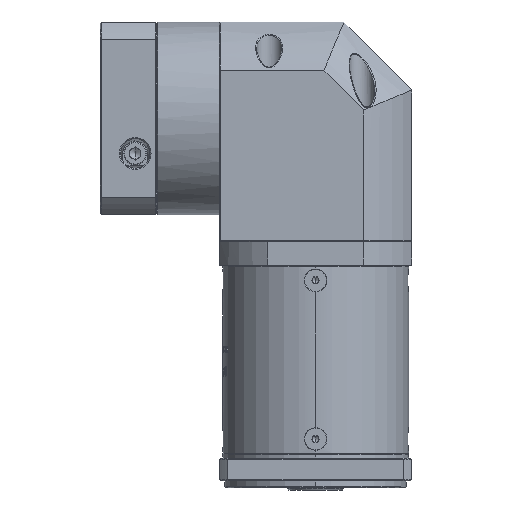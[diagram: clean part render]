
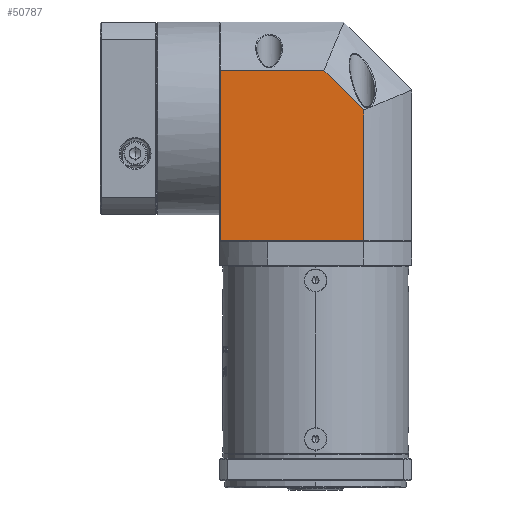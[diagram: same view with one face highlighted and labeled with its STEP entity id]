
A CAD part, left-side view. The second image highlights one B-rep face of the part: STEP entity #50787.
In plain terms, the highlighted planar face has unit normal (-1, 0, 0).
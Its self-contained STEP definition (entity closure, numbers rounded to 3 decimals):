
#348 = DIRECTION ( 'NONE',  ( 0., -1., 0. ) ) ;
#7952 = VERTEX_POINT ( 'NONE', #88478 ) ;
#11589 = VECTOR ( 'NONE', #348, 1000. ) ;
#12476 = VECTOR ( 'NONE', #34787, 1000. ) ;
#14068 = VECTOR ( 'NONE', #121519, 1000. ) ;
#20543 = ORIENTED_EDGE ( 'NONE', *, *, #99716, .F. ) ;
#29097 = CARTESIAN_POINT ( 'NONE',  ( -129.934, 75.993, 33.438 ) ) ;
#34787 = DIRECTION ( 'NONE',  ( 0., -0.707, -0.707 ) ) ;
#34889 = EDGE_LOOP ( 'NONE', ( #36699, #127646, #167060, #152619, #20543 ) ) ;
#35917 = DIRECTION ( 'NONE',  ( 1., 0., 0. ) ) ;
#36699 = ORIENTED_EDGE ( 'NONE', *, *, #124267, .T. ) ;
#50787 = ADVANCED_FACE ( 'NONE', ( #165572 ), #140981, .F. ) ;
#52873 = VERTEX_POINT ( 'NONE', #160065 ) ;
#56956 = DIRECTION ( 'NONE',  ( 0., 0., -1. ) ) ;
#59354 = CARTESIAN_POINT ( 'NONE',  ( -129.934, 75.493, 33.438 ) ) ;
#59616 = LINE ( 'NONE', #70251, #125705 ) ;
#63586 = CARTESIAN_POINT ( 'NONE',  ( -129.934, 29.81, 108.651 ) ) ;
#70251 = CARTESIAN_POINT ( 'NONE',  ( -129.934, 12.28, 133.438 ) ) ;
#74642 = CARTESIAN_POINT ( 'NONE',  ( -129.934, 29.81, 108.651 ) ) ;
#79034 = VERTEX_POINT ( 'NONE', #111309 ) ;
#79635 = CARTESIAN_POINT ( 'NONE',  ( -129.934, 75.993, 108.651 ) ) ;
#87617 = CARTESIAN_POINT ( 'NONE',  ( -129.934, 75.493, 129.938 ) ) ;
#88478 = CARTESIAN_POINT ( 'NONE',  ( -129.934, 12.28, 33.438 ) ) ;
#95436 = AXIS2_PLACEMENT_3D ( 'NONE', #115061, #35917, #128266 ) ;
#99551 = EDGE_CURVE ( 'NONE', #52873, #7952, #59616, .T. ) ;
#99716 = EDGE_CURVE ( 'NONE', #110279, #79034, #158639, .T. ) ;
#106981 = EDGE_CURVE ( 'NONE', #79034, #141637, #112974, .T. ) ;
#110279 = VERTEX_POINT ( 'NONE', #59354 ) ;
#111309 = CARTESIAN_POINT ( 'NONE',  ( -129.934, 75.493, 108.651 ) ) ;
#112974 = LINE ( 'NONE', #79635, #11589 ) ;
#115061 = CARTESIAN_POINT ( 'NONE',  ( -129.934, 75.993, 129.938 ) ) ;
#115442 = LINE ( 'NONE', #29097, #14068 ) ;
#121519 = DIRECTION ( 'NONE',  ( 0., -1., 0. ) ) ;
#123527 = VECTOR ( 'NONE', #167227, 1000. ) ;
#124267 = EDGE_CURVE ( 'NONE', #110279, #7952, #115442, .T. ) ;
#125705 = VECTOR ( 'NONE', #56956, 1000. ) ;
#127646 = ORIENTED_EDGE ( 'NONE', *, *, #99551, .F. ) ;
#128266 = DIRECTION ( 'NONE',  ( 0., 1., 0. ) ) ;
#140981 = PLANE ( 'NONE',  #95436 ) ;
#141637 = VERTEX_POINT ( 'NONE', #63586 ) ;
#147905 = EDGE_CURVE ( 'NONE', #141637, #52873, #153003, .T. ) ;
#152619 = ORIENTED_EDGE ( 'NONE', *, *, #106981, .F. ) ;
#153003 = LINE ( 'NONE', #74642, #12476 ) ;
#158639 = LINE ( 'NONE', #87617, #123527 ) ;
#160065 = CARTESIAN_POINT ( 'NONE',  ( -129.934, 12.28, 91.121 ) ) ;
#165572 = FACE_OUTER_BOUND ( 'NONE', #34889, .T. ) ;
#167060 = ORIENTED_EDGE ( 'NONE', *, *, #147905, .F. ) ;
#167227 = DIRECTION ( 'NONE',  ( 0., 0., 1. ) ) ;
